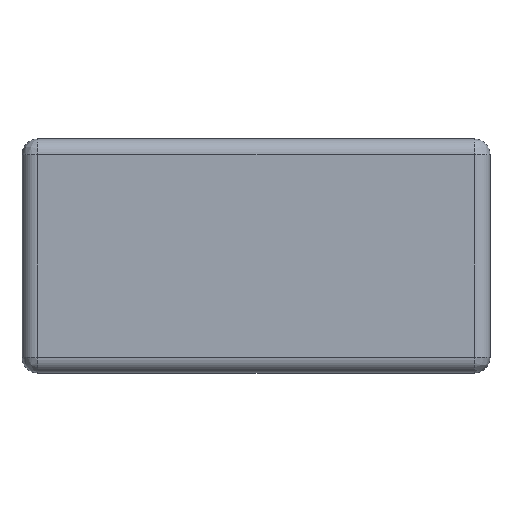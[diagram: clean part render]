
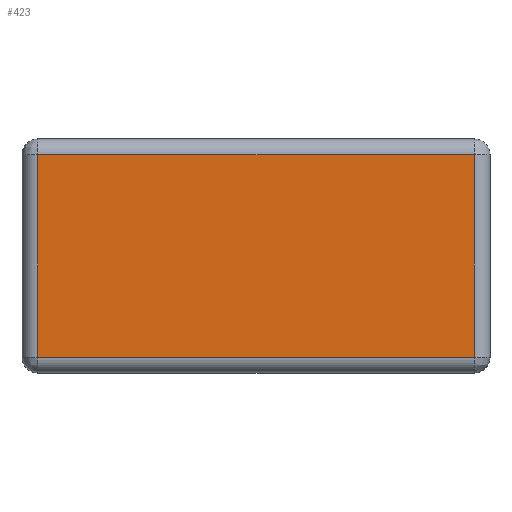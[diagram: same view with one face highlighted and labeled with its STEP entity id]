
A CAD part, top view. The second image highlights one B-rep face of the part: STEP entity #423.
In plain terms, the highlighted planar face has unit normal (0, 0, 1).
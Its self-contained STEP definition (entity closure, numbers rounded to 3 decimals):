
#38 = LINE ( 'NONE', #606, #522 ) ;
#115 = CARTESIAN_POINT ( 'NONE',  ( -42., 19.5, 0. ) ) ;
#136 = AXIS2_PLACEMENT_3D ( 'NONE', #1831, #1859, #1103 ) ;
#137 = EDGE_CURVE ( 'NONE', #745, #1811, #849, .T. ) ;
#193 = ORIENTED_EDGE ( 'NONE', *, *, #137, .T. ) ;
#204 = CARTESIAN_POINT ( 'NONE',  ( 42., -19.5, 0. ) ) ;
#211 = EDGE_CURVE ( 'NONE', #1281, #1247, #38, .T. ) ;
#246 = EDGE_CURVE ( 'NONE', #1247, #745, #882, .T. ) ;
#262 = CARTESIAN_POINT ( 'NONE',  ( 42., 19.5, 0. ) ) ;
#333 = DIRECTION ( 'NONE',  ( 0., -1., 0. ) ) ;
#396 = PLANE ( 'NONE',  #136 ) ;
#423 = ADVANCED_FACE ( 'NONE', ( #1838 ), #396, .T. ) ;
#460 = ORIENTED_EDGE ( 'NONE', *, *, #1622, .T. ) ;
#499 = ORIENTED_EDGE ( 'NONE', *, *, #211, .T. ) ;
#522 = VECTOR ( 'NONE', #1457, 1000. ) ;
#588 = EDGE_LOOP ( 'NONE', ( #499, #840, #193, #460 ) ) ;
#606 = CARTESIAN_POINT ( 'NONE',  ( -42., 19.5, 0. ) ) ;
#714 = DIRECTION ( 'NONE',  ( 1., 0., 0. ) ) ;
#722 = CARTESIAN_POINT ( 'NONE',  ( -42., -19.5, 0. ) ) ;
#745 = VERTEX_POINT ( 'NONE', #722 ) ;
#840 = ORIENTED_EDGE ( 'NONE', *, *, #246, .T. ) ;
#849 = LINE ( 'NONE', #1385, #912 ) ;
#862 = LINE ( 'NONE', #262, #1454 ) ;
#882 = LINE ( 'NONE', #1447, #1410 ) ;
#912 = VECTOR ( 'NONE', #714, 1000. ) ;
#1103 = DIRECTION ( 'NONE',  ( 0., -1., 0. ) ) ;
#1247 = VERTEX_POINT ( 'NONE', #115 ) ;
#1281 = VERTEX_POINT ( 'NONE', #1302 ) ;
#1302 = CARTESIAN_POINT ( 'NONE',  ( 42., 19.5, 0. ) ) ;
#1385 = CARTESIAN_POINT ( 'NONE',  ( -42., -19.5, 0. ) ) ;
#1410 = VECTOR ( 'NONE', #333, 1000. ) ;
#1447 = CARTESIAN_POINT ( 'NONE',  ( -42., 19.5, 0. ) ) ;
#1454 = VECTOR ( 'NONE', #1529, 1000. ) ;
#1457 = DIRECTION ( 'NONE',  ( -1., 0., 0. ) ) ;
#1529 = DIRECTION ( 'NONE',  ( 0., 1., 0. ) ) ;
#1622 = EDGE_CURVE ( 'NONE', #1811, #1281, #862, .T. ) ;
#1811 = VERTEX_POINT ( 'NONE', #204 ) ;
#1831 = CARTESIAN_POINT ( 'NONE',  ( -42., 19.5, 0. ) ) ;
#1838 = FACE_OUTER_BOUND ( 'NONE', #588, .T. ) ;
#1859 = DIRECTION ( 'NONE',  ( 0., 0., 1. ) ) ;
